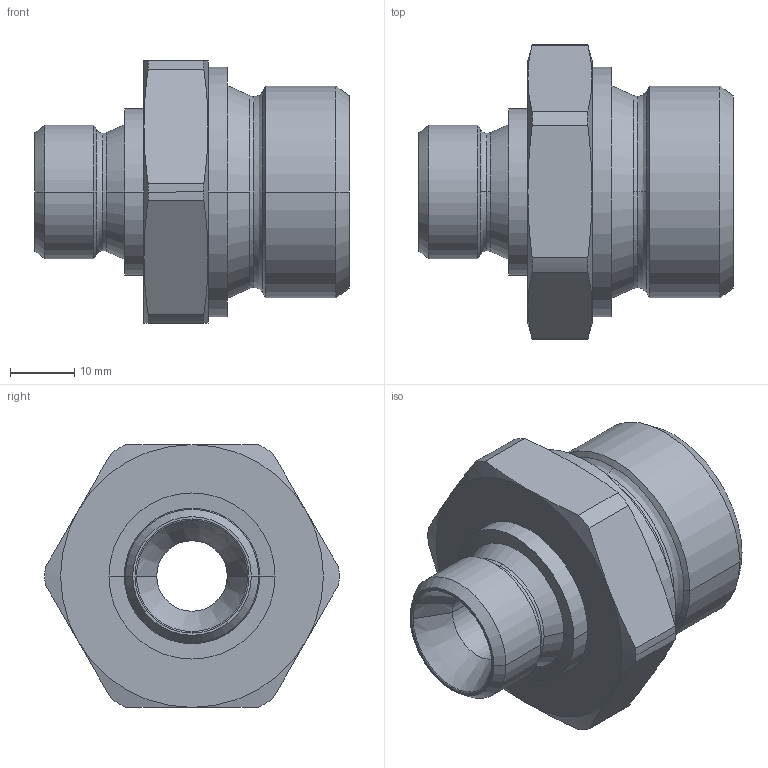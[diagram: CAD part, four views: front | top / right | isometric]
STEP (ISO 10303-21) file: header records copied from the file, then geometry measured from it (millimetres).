
FILE_DESCRIPTION((''),'2;1');
FILE_NAME('300514.stp','2006-09-11T08:11:27',(''),(''),'AutoCAD STEP 2000i','AutoCAD 2000i',', , ');
FILE_SCHEMA(('CONFIG_CONTROL_DESIGN'));
Length unit declared in the file: millimetre
Products named in the file (2): 300514.0; CHIAVE SMUSSATA#0
Assembly tree (1 placements, depth 2):
  300514.0
    CHIAVE SMUSSATA#0
Bounding box: 49 x 45.9 x 41 mm (x, y, z)
Volume: 25843.9 mm3; surface area: 9850.4 mm2
Topology: 1 solids, 1 shells, 76 faces, 178 edges, 106 vertices
Faces by surface type: cone 34, cylinder 20, plane 10, bspline 8, torus 4
Entity records: 2593 total; most frequent: CARTESIAN_POINT 762, DIRECTION 400, ORIENTED_EDGE 356, EDGE_CURVE 178, AXIS2_PLACEMENT_3D 176, VERTEX_POINT 106, CIRCLE 106, EDGE_LOOP 80
